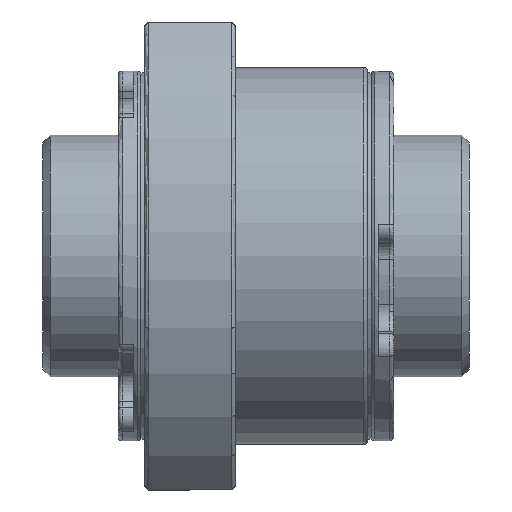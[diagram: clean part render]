
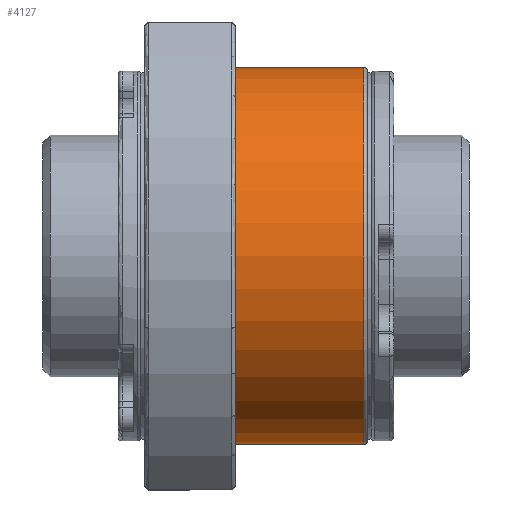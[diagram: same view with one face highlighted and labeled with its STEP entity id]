
A CAD part, front view. The second image highlights one B-rep face of the part: STEP entity #4127.
In plain terms, the highlighted cylindrical face has radius 25 mm (diameter 50 mm), a partial arc.
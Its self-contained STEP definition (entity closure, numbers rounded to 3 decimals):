
#45 = VERTEX_POINT ( 'NONE', #5489 ) ;
#118 = VERTEX_POINT ( 'NONE', #7738 ) ;
#917 = CARTESIAN_POINT ( 'NONE',  ( 29.5, 0., -25. ) ) ;
#1001 = LINE ( 'NONE', #8094, #2536 ) ;
#1154 = ORIENTED_EDGE ( 'NONE', *, *, #4022, .T. ) ;
#1776 = CARTESIAN_POINT ( 'NONE',  ( 12., 0., 0. ) ) ;
#1795 = EDGE_CURVE ( 'NONE', #118, #6073, #6139, .T. ) ;
#1939 = CARTESIAN_POINT ( 'NONE',  ( 29.5, 0., 0. ) ) ;
#2251 = CARTESIAN_POINT ( 'NONE',  ( 12., 0., 25. ) ) ;
#2536 = VECTOR ( 'NONE', #2880, 1000. ) ;
#2754 = ORIENTED_EDGE ( 'NONE', *, *, #1795, .T. ) ;
#2880 = DIRECTION ( 'NONE',  ( -1., 0., 0. ) ) ;
#2959 = FACE_OUTER_BOUND ( 'NONE', #4014, .T. ) ;
#3068 = CYLINDRICAL_SURFACE ( 'NONE', #7825, 25. ) ;
#3119 = EDGE_CURVE ( 'NONE', #118, #45, #5920, .T. ) ;
#3136 = AXIS2_PLACEMENT_3D ( 'NONE', #1776, #5154, #6460 ) ;
#3191 = DIRECTION ( 'NONE',  ( 0., 0., -1. ) ) ;
#3814 = CARTESIAN_POINT ( 'NONE',  ( 29., 0., 0. ) ) ;
#4014 = EDGE_LOOP ( 'NONE', ( #4586, #2754, #1154, #8155 ) ) ;
#4022 = EDGE_CURVE ( 'NONE', #6073, #7309, #1001, .T. ) ;
#4127 = ADVANCED_FACE ( 'NONE', ( #2959 ), #3068, .T. ) ;
#4212 = DIRECTION ( 'NONE',  ( -1., 0., 0. ) ) ;
#4586 = ORIENTED_EDGE ( 'NONE', *, *, #3119, .F. ) ;
#5154 = DIRECTION ( 'NONE',  ( 1., 0., 0. ) ) ;
#5489 = CARTESIAN_POINT ( 'NONE',  ( 12., 0., -25. ) ) ;
#5920 = LINE ( 'NONE', #917, #8503 ) ;
#6008 = AXIS2_PLACEMENT_3D ( 'NONE', #3814, #6467, #3191 ) ;
#6073 = VERTEX_POINT ( 'NONE', #6934 ) ;
#6139 = CIRCLE ( 'NONE', #6008, 25. ) ;
#6460 = DIRECTION ( 'NONE',  ( 0., 0., -1. ) ) ;
#6467 = DIRECTION ( 'NONE',  ( -1., 0., 0. ) ) ;
#6870 = EDGE_CURVE ( 'NONE', #7309, #45, #7660, .T. ) ;
#6934 = CARTESIAN_POINT ( 'NONE',  ( 29., 0., 25. ) ) ;
#7169 = DIRECTION ( 'NONE',  ( -1., 0., 0. ) ) ;
#7309 = VERTEX_POINT ( 'NONE', #2251 ) ;
#7660 = CIRCLE ( 'NONE', #3136, 25. ) ;
#7738 = CARTESIAN_POINT ( 'NONE',  ( 29., 0., -25. ) ) ;
#7825 = AXIS2_PLACEMENT_3D ( 'NONE', #1939, #7169, #7884 ) ;
#7884 = DIRECTION ( 'NONE',  ( 0., 0., 1. ) ) ;
#8094 = CARTESIAN_POINT ( 'NONE',  ( 29.5, 0., 25. ) ) ;
#8155 = ORIENTED_EDGE ( 'NONE', *, *, #6870, .T. ) ;
#8503 = VECTOR ( 'NONE', #4212, 1000. ) ;
